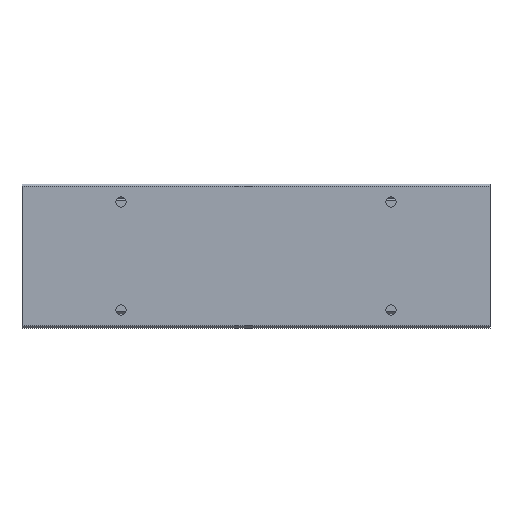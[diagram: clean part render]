
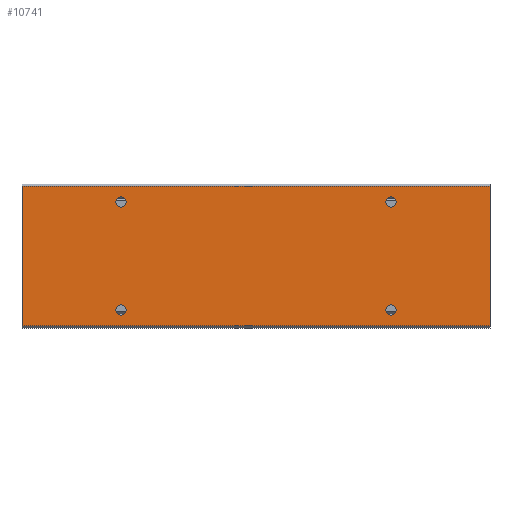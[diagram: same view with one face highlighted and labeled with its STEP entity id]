
A CAD part, front view. The second image highlights one B-rep face of the part: STEP entity #10741.
In plain terms, the highlighted planar face has unit normal (0, -1, 0).
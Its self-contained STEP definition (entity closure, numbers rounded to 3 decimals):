
#397=CIRCLE('',#11382,1.425);
#398=CIRCLE('',#11387,1.425);
#406=CIRCLE('',#11401,1.425);
#407=CIRCLE('',#11406,1.425);
#1555=ORIENTED_EDGE('',*,*,#4412,.F.);
#1556=ORIENTED_EDGE('',*,*,#4408,.F.);
#1557=ORIENTED_EDGE('',*,*,#4391,.F.);
#1558=ORIENTED_EDGE('',*,*,#4387,.F.);
#1559=ORIENTED_EDGE('',*,*,#4364,.T.);
#1560=ORIENTED_EDGE('',*,*,#4807,.F.);
#1561=ORIENTED_EDGE('',*,*,#4347,.F.);
#1562=ORIENTED_EDGE('',*,*,#4806,.T.);
#4347=EDGE_CURVE('',#5983,#5984,#7097,.T.);
#4364=EDGE_CURVE('',#6001,#6000,#7114,.T.);
#4387=EDGE_CURVE('',#6019,#6019,#397,.T.);
#4391=EDGE_CURVE('',#6022,#6022,#398,.T.);
#4408=EDGE_CURVE('',#6034,#6034,#406,.T.);
#4412=EDGE_CURVE('',#6037,#6037,#407,.T.);
#4806=EDGE_CURVE('',#5983,#6001,#7278,.T.);
#4807=EDGE_CURVE('',#5984,#6000,#7279,.T.);
#5983=VERTEX_POINT('',#16241);
#5984=VERTEX_POINT('',#16243);
#6000=VERTEX_POINT('',#16276);
#6001=VERTEX_POINT('',#16278);
#6019=VERTEX_POINT('',#16322);
#6022=VERTEX_POINT('',#16330);
#6034=VERTEX_POINT('',#16362);
#6037=VERTEX_POINT('',#16370);
#7097=LINE('',#16242,#8057);
#7114=LINE('',#16277,#8074);
#7278=LINE('',#17156,#8238);
#7279=LINE('',#17158,#8239);
#8057=VECTOR('',#12685,1000.);
#8074=VECTOR('',#12704,1000.);
#8238=VECTOR('',#13446,1000.);
#8239=VECTOR('',#13449,1000.);
#9049=EDGE_LOOP('',(#1555));
#9050=EDGE_LOOP('',(#1556));
#9051=EDGE_LOOP('',(#1557));
#9052=EDGE_LOOP('',(#1558));
#9053=EDGE_LOOP('',(#1559,#1560,#1561,#1562));
#9779=FACE_BOUND('',#9049,.T.);
#9780=FACE_BOUND('',#9050,.T.);
#9781=FACE_BOUND('',#9051,.T.);
#9782=FACE_BOUND('',#9052,.T.);
#9783=FACE_BOUND('',#9053,.T.);
#10470=PLANE('',#11666);
#10741=ADVANCED_FACE('',(#9779,#9780,#9781,#9782,#9783),#10470,.F.);
#11382=AXIS2_PLACEMENT_3D('',#16321,#12735,#12736);
#11387=AXIS2_PLACEMENT_3D('',#16329,#12745,#12746);
#11401=AXIS2_PLACEMENT_3D('',#16361,#12779,#12780);
#11406=AXIS2_PLACEMENT_3D('',#16369,#12789,#12790);
#11666=AXIS2_PLACEMENT_3D('',#17157,#13447,#13448);
#12685=DIRECTION('',(0.,0.,-1.));
#12704=DIRECTION('',(0.,0.,-1.));
#12735=DIRECTION('',(0.,-1.,0.));
#12736=DIRECTION('',(0.,0.,-1.));
#12745=DIRECTION('',(0.,-1.,0.));
#12746=DIRECTION('',(0.,0.,-1.));
#12779=DIRECTION('',(0.,-1.,0.));
#12780=DIRECTION('',(0.,0.,-1.));
#12789=DIRECTION('',(0.,-1.,0.));
#12790=DIRECTION('',(0.,0.,-1.));
#13446=DIRECTION('',(-1.,0.,0.));
#13447=DIRECTION('',(0.,1.,0.));
#13448=DIRECTION('',(0.,0.,1.));
#13449=DIRECTION('',(-1.,0.,0.));
#16241=CARTESIAN_POINT('',(130.,0.,19.4));
#16242=CARTESIAN_POINT('',(130.,0.,19.4));
#16243=CARTESIAN_POINT('',(130.,0.,-19.4));
#16276=CARTESIAN_POINT('',(0.,0.,-19.4));
#16277=CARTESIAN_POINT('',(0.,0.,19.4));
#16278=CARTESIAN_POINT('',(0.,0.,19.4));
#16321=CARTESIAN_POINT('',(27.5,0.,-15.));
#16322=CARTESIAN_POINT('',(27.5,0.,-16.425));
#16329=CARTESIAN_POINT('',(102.5,0.,-15.));
#16330=CARTESIAN_POINT('',(102.5,0.,-16.425));
#16361=CARTESIAN_POINT('',(27.5,0.,15.));
#16362=CARTESIAN_POINT('',(27.5,0.,13.575));
#16369=CARTESIAN_POINT('',(102.5,0.,15.));
#16370=CARTESIAN_POINT('',(102.5,0.,13.575));
#17156=CARTESIAN_POINT('',(130.,0.,19.4));
#17157=CARTESIAN_POINT('',(130.,0.,19.4));
#17158=CARTESIAN_POINT('',(130.,0.,-19.4));
